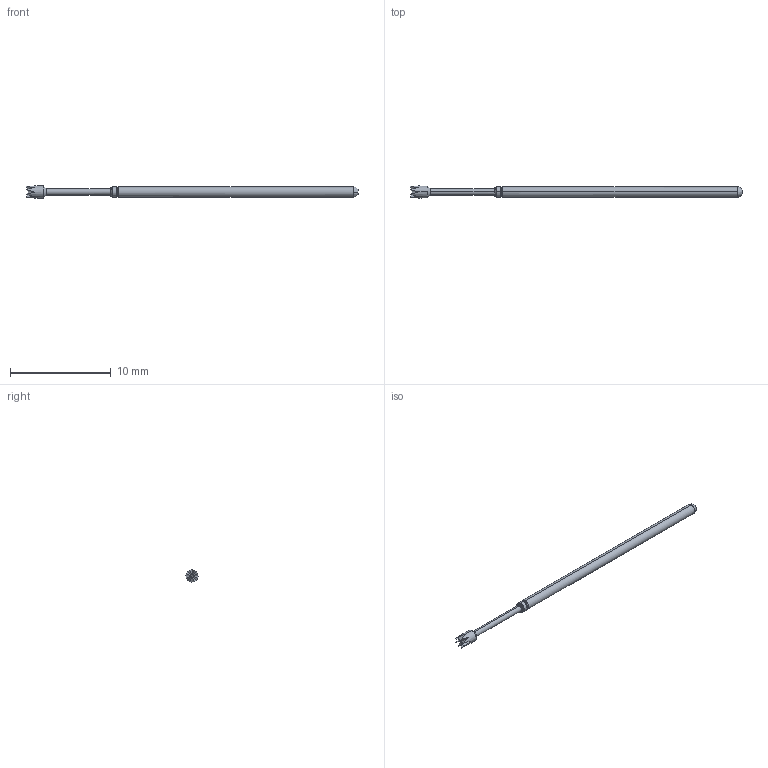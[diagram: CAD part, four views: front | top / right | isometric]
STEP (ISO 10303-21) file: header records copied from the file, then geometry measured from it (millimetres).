
FILE_DESCRIPTION (( 'STEP AP214' ), '1' );
FILE_NAME ('LPA2Z.STEP', '2023-06-05T11:13:56', ( '' ), ( '' ), 'SwSTEP 2.0', 'SolidWorks 2022', '' );
FILE_SCHEMA (( 'AUTOMOTIVE_DESIGN' ));
Length unit declared in the file: inch
Products named in the file (1): LPA2Z
Bounding box: 33.02 x 1.19 x 1.19 mm (x, y, z)
Volume: 23.4 mm3; surface area: 101.8 mm2
Topology: 1 solids, 1 shells, 38 faces, 76 edges, 41 vertices
Faces by surface type: bspline 38
Entity records: 1208 total; most frequent: CARTESIAN_POINT 706, ORIENTED_EDGE 152, EDGE_CURVE 76, B_SPLINE_CURVE_WITH_KNOTS 52, VERTEX_POINT 41, EDGE_LOOP 39, ADVANCED_FACE 38, FACE_OUTER_BOUND 38
